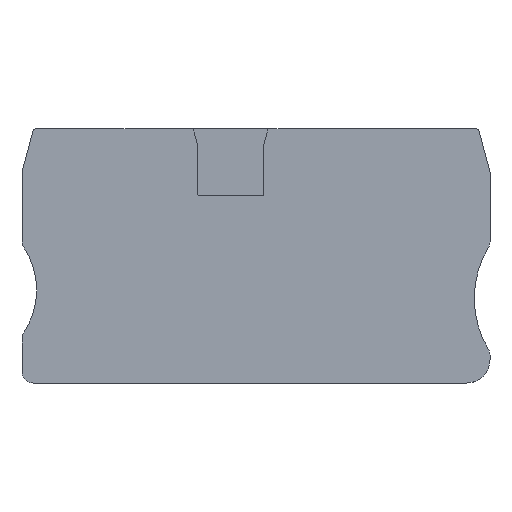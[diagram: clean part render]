
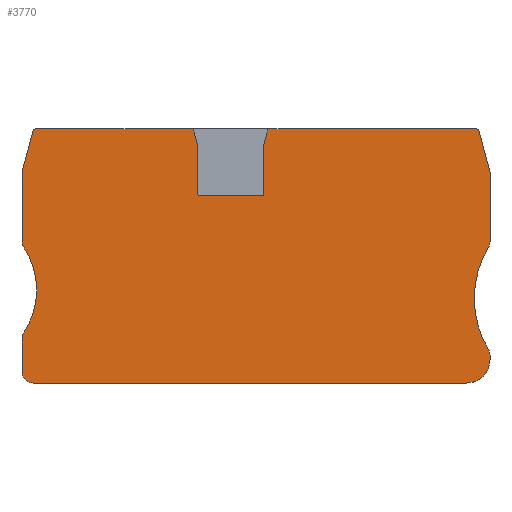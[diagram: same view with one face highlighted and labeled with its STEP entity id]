
A CAD part, top view. The second image highlights one B-rep face of the part: STEP entity #3770.
In plain terms, the highlighted planar face has unit normal (0, 0, 1).
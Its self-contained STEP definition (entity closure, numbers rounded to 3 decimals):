
#200=CARTESIAN_POINT('',(-13.204,43.745,11.9));
#210=VERTEX_POINT('',#200);
#240=CARTESIAN_POINT('',(-6.971,43.745,11.9));
#250=DIRECTION('',(-1.,0.,0.));
#260=VECTOR('',#250,1.);
#270=LINE('',#240,#260);
#280=CARTESIAN_POINT('',(-40.206,43.745,11.9));
#290=VERTEX_POINT('',#280);
#300=EDGE_CURVE('',#210,#290,#270,.T.);
#800=CARTESIAN_POINT('',(35.306,43.745,11.9));
#810=VERTEX_POINT('',#800);
#840=CARTESIAN_POINT('',(-0.396,43.745,11.9));
#850=VERTEX_POINT('',#840);
#860=EDGE_CURVE('',#810,#850,#270,.T.);
#1420=CARTESIAN_POINT('',(-39.969,13.459,11.9));
#1430=DIRECTION('',(0.,0.,1.));
#1440=DIRECTION('',(1.,0.,0.));
#1450=AXIS2_PLACEMENT_3D('',#1420,#1430,#1440);
#1460=PLANE('',#1450);
#1470=CARTESIAN_POINT('',(41.537,21.923,11.9));
#1480=DIRECTION('',(-0.259,0.966,0.));
#1490=VECTOR('',#1480,1.);
#1500=LINE('',#1470,#1490);
#1510=CARTESIAN_POINT('',(37.633,36.493,11.9));
#1520=VERTEX_POINT('',#1510);
#1530=CARTESIAN_POINT('',(35.789,43.375,11.9));
#1540=VERTEX_POINT('',#1530);
#1550=EDGE_CURVE('',#1520,#1540,#1500,.T.);
#1560=ORIENTED_EDGE('',*,*,#1550,.T.);
#1570=CARTESIAN_POINT('',(37.15,36.364,11.9));
#1580=DIRECTION('',(0.,0.,1.));
#1590=DIRECTION('',(1.,0.,0.));
#1600=AXIS2_PLACEMENT_3D('',#1570,#1580,#1590);
#1610=CIRCLE('',#1600,0.5);
#1620=CARTESIAN_POINT('',(37.65,36.364,11.9));
#1630=VERTEX_POINT('',#1620);
#1640=EDGE_CURVE('',#1630,#1520,#1610,.T.);
#1650=ORIENTED_EDGE('',*,*,#1640,.T.);
#1660=CARTESIAN_POINT('',(37.65,21.923,11.9));
#1670=DIRECTION('',(0.,1.,0.));
#1680=VECTOR('',#1670,1.);
#1690=LINE('',#1660,#1680);
#1700=CARTESIAN_POINT('',(37.65,24.463,11.9));
#1710=VERTEX_POINT('',#1700);
#1720=EDGE_CURVE('',#1710,#1630,#1690,.T.);
#1730=ORIENTED_EDGE('',*,*,#1720,.T.);
#1740=CARTESIAN_POINT('',(35.65,24.463,11.9));
#1750=DIRECTION('',(0.,0.,1.));
#1760=DIRECTION('',(1.,0.,0.));
#1770=AXIS2_PLACEMENT_3D('',#1740,#1750,#1760);
#1780=CIRCLE('',#1770,2.);
#1790=CARTESIAN_POINT('',(37.366,23.435,11.9));
#1800=VERTEX_POINT('',#1790);
#1810=EDGE_CURVE('',#1800,#1710,#1780,.T.);
#1820=ORIENTED_EDGE('',*,*,#1810,.T.);
#1830=CARTESIAN_POINT('',(51.95,14.7,11.9));
#1840=DIRECTION('',(0.,0.,1.));
#1850=DIRECTION('',(1.,0.,0.));
#1860=AXIS2_PLACEMENT_3D('',#1830,#1840,#1850);
#1870=CIRCLE('',#1860,17.);
#1880=CARTESIAN_POINT('',(34.95,14.7,11.9));
#1890=VERTEX_POINT('',#1880);
#1900=EDGE_CURVE('',#1800,#1890,#1870,.T.);
#1910=ORIENTED_EDGE('',*,*,#1900,.F.);
#1920=CARTESIAN_POINT('',(37.366,5.965,11.9));
#1930=VERTEX_POINT('',#1920);
#1940=EDGE_CURVE('',#1890,#1930,#1870,.T.);
#1950=ORIENTED_EDGE('',*,*,#1940,.F.);
#1960=CARTESIAN_POINT('',(35.65,4.937,11.9));
#1970=DIRECTION('',(0.,0.,1.));
#1980=DIRECTION('',(1.,0.,0.));
#1990=AXIS2_PLACEMENT_3D('',#1960,#1970,#1980);
#2000=CIRCLE('',#1990,2.);
#2010=CARTESIAN_POINT('',(37.65,4.937,11.9));
#2020=VERTEX_POINT('',#2010);
#2030=EDGE_CURVE('',#2020,#1930,#2000,.T.);
#2040=ORIENTED_EDGE('',*,*,#2030,.T.);
#2050=CARTESIAN_POINT('',(37.65,21.923,11.9));
#2060=DIRECTION('',(0.,1.,0.));
#2070=VECTOR('',#2060,1.);
#2080=LINE('',#2050,#2070);
#2090=CARTESIAN_POINT('',(37.65,4.2,11.9));
#2100=VERTEX_POINT('',#2090);
#2110=EDGE_CURVE('',#2100,#2020,#2080,.T.);
#2120=ORIENTED_EDGE('',*,*,#2110,.T.);
#2130=CARTESIAN_POINT('',(33.65,4.2,11.9));
#2140=DIRECTION('',(0.,0.,1.));
#2150=DIRECTION('',(1.,0.,0.));
#2160=AXIS2_PLACEMENT_3D('',#2130,#2140,#2150);
#2170=CIRCLE('',#2160,4.);
#2180=CARTESIAN_POINT('',(33.65,0.2,11.9));
#2190=VERTEX_POINT('',#2180);
#2200=EDGE_CURVE('',#2190,#2100,#2170,.T.);
#2210=ORIENTED_EDGE('',*,*,#2200,.T.);
#2220=CARTESIAN_POINT('',(-6.971,0.2,11.9));
#2230=DIRECTION('',(1.,0.,0.));
#2240=VECTOR('',#2230,1.);
#2250=LINE('',#2220,#2240);
#2260=CARTESIAN_POINT('',(-40.55,0.2,11.9));
#2270=VERTEX_POINT('',#2260);
#2280=EDGE_CURVE('',#2270,#2190,#2250,.T.);
#2290=ORIENTED_EDGE('',*,*,#2280,.T.);
#2300=CARTESIAN_POINT('',(-40.55,2.2,11.9));
#2310=DIRECTION('',(0.,0.,1.));
#2320=DIRECTION('',(1.,0.,0.));
#2330=AXIS2_PLACEMENT_3D('',#2300,#2310,#2320);
#2340=CIRCLE('',#2330,2.);
#2350=CARTESIAN_POINT('',(-42.55,2.2,11.9));
#2360=VERTEX_POINT('',#2350);
#2370=EDGE_CURVE('',#2360,#2270,#2340,.T.);
#2380=ORIENTED_EDGE('',*,*,#2370,.T.);
#2390=CARTESIAN_POINT('',(-42.55,21.923,11.9));
#2400=DIRECTION('',(0.,-1.,0.));
#2410=VECTOR('',#2400,1.);
#2420=LINE('',#2390,#2410);
#2430=CARTESIAN_POINT('',(-42.55,7.928,11.9));
#2440=VERTEX_POINT('',#2430);
#2450=EDGE_CURVE('',#2440,#2360,#2420,.T.);
#2460=ORIENTED_EDGE('',*,*,#2450,.T.);
#2470=CARTESIAN_POINT('',(-41.05,7.928,11.9));
#2480=DIRECTION('',(0.,0.,1.));
#2490=DIRECTION('',(1.,0.,0.));
#2500=AXIS2_PLACEMENT_3D('',#2470,#2480,#2490);
#2510=CIRCLE('',#2500,1.5);
#2520=CARTESIAN_POINT('',(-42.293,8.767,11.9));
#2530=VERTEX_POINT('',#2520);
#2540=EDGE_CURVE('',#2530,#2440,#2510,.T.);
#2550=ORIENTED_EDGE('',*,*,#2540,.T.);
#2560=CARTESIAN_POINT('',(-53.235,16.15,11.9));
#2570=DIRECTION('',(0.,0.,1.));
#2580=DIRECTION('',(1.,0.,0.));
#2590=AXIS2_PLACEMENT_3D('',#2560,#2570,#2580);
#2600=CIRCLE('',#2590,13.2);
#2610=CARTESIAN_POINT('',(-40.035,16.15,11.9));
#2620=VERTEX_POINT('',#2610);
#2630=EDGE_CURVE('',#2530,#2620,#2600,.T.);
#2640=ORIENTED_EDGE('',*,*,#2630,.F.);
#2650=CARTESIAN_POINT('',(-42.293,23.533,11.9));
#2660=VERTEX_POINT('',#2650);
#2670=EDGE_CURVE('',#2620,#2660,#2600,.T.);
#2680=ORIENTED_EDGE('',*,*,#2670,.F.);
#2690=CARTESIAN_POINT('',(-41.05,24.372,11.9));
#2700=DIRECTION('',(0.,0.,1.));
#2710=DIRECTION('',(1.,0.,0.));
#2720=AXIS2_PLACEMENT_3D('',#2690,#2700,#2710);
#2730=CIRCLE('',#2720,1.5);
#2740=CARTESIAN_POINT('',(-42.55,24.372,11.9));
#2750=VERTEX_POINT('',#2740);
#2760=EDGE_CURVE('',#2750,#2660,#2730,.T.);
#2770=ORIENTED_EDGE('',*,*,#2760,.T.);
#2780=CARTESIAN_POINT('',(-42.55,21.923,11.9));
#2790=DIRECTION('',(0.,-1.,0.));
#2800=VECTOR('',#2790,1.);
#2810=LINE('',#2780,#2800);
#2820=CARTESIAN_POINT('',(-42.55,36.364,11.9));
#2830=VERTEX_POINT('',#2820);
#2840=EDGE_CURVE('',#2830,#2750,#2810,.T.);
#2850=ORIENTED_EDGE('',*,*,#2840,.T.);
#2860=CARTESIAN_POINT('',(-42.05,36.364,11.9));
#2870=DIRECTION('',(0.,0.,1.));
#2880=DIRECTION('',(1.,0.,0.));
#2890=AXIS2_PLACEMENT_3D('',#2860,#2870,#2880);
#2900=CIRCLE('',#2890,0.5);
#2910=CARTESIAN_POINT('',(-42.533,36.493,11.9));
#2920=VERTEX_POINT('',#2910);
#2930=EDGE_CURVE('',#2920,#2830,#2900,.T.);
#2940=ORIENTED_EDGE('',*,*,#2930,.T.);
#2950=CARTESIAN_POINT('',(-46.437,21.923,11.9));
#2960=DIRECTION('',(-0.259,-0.966,0.));
#2970=VECTOR('',#2960,1.);
#2980=LINE('',#2950,#2970);
#2990=CARTESIAN_POINT('',(-40.689,43.375,11.9));
#3000=VERTEX_POINT('',#2990);
#3010=EDGE_CURVE('',#3000,#2920,#2980,.T.);
#3020=ORIENTED_EDGE('',*,*,#3010,.T.);
#3030=CARTESIAN_POINT('',(-40.206,43.245,11.9));
#3040=DIRECTION('',(0.,0.,1.));
#3050=DIRECTION('',(1.,0.,0.));
#3060=AXIS2_PLACEMENT_3D('',#3030,#3040,#3050);
#3070=CIRCLE('',#3060,0.5);
#3080=EDGE_CURVE('',#290,#3000,#3070,.T.);
#3090=ORIENTED_EDGE('',*,*,#3080,.T.);
#3100=ORIENTED_EDGE('',*,*,#300,.T.);
#3110=CARTESIAN_POINT('',(-7.357,21.923,11.9));
#3120=DIRECTION('',(-0.259,0.966,0.));
#3130=VECTOR('',#3120,1.);
#3140=LINE('',#3110,#3130);
#3150=CARTESIAN_POINT('',(-12.4,40.745,11.9));
#3160=VERTEX_POINT('',#3150);
#3170=EDGE_CURVE('',#3160,#210,#3140,.T.);
#3180=ORIENTED_EDGE('',*,*,#3170,.T.);
#3190=CARTESIAN_POINT('',(-12.4,21.923,11.9));
#3200=DIRECTION('',(0.,-1.,0.));
#3210=VECTOR('',#3200,1.);
#3220=LINE('',#3190,#3210);
#3230=CARTESIAN_POINT('',(-12.4,32.481,11.9));
#3240=VERTEX_POINT('',#3230);
#3250=EDGE_CURVE('',#3160,#3240,#3220,.T.);
#3260=ORIENTED_EDGE('',*,*,#3250,.F.);
#3270=CARTESIAN_POINT('',(-12.2,32.481,11.9));
#3280=DIRECTION('',(0.,0.,-1.));
#3290=DIRECTION('',(-1.,0.,0.));
#3300=AXIS2_PLACEMENT_3D('',#3270,#3280,#3290);
#3310=CIRCLE('',#3300,0.2);
#3320=CARTESIAN_POINT('',(-12.2,32.281,11.9));
#3330=VERTEX_POINT('',#3320);
#3340=EDGE_CURVE('',#3330,#3240,#3310,.T.);
#3350=ORIENTED_EDGE('',*,*,#3340,.T.);
#3360=CARTESIAN_POINT('',(-6.971,32.281,11.9));
#3370=DIRECTION('',(-1.,0.,0.));
#3380=VECTOR('',#3370,1.);
#3390=LINE('',#3360,#3380);
#3400=CARTESIAN_POINT('',(-1.4,32.281,11.9));
#3410=VERTEX_POINT('',#3400);
#3420=EDGE_CURVE('',#3410,#3330,#3390,.T.);
#3430=ORIENTED_EDGE('',*,*,#3420,.T.);
#3440=CARTESIAN_POINT('',(-1.4,32.481,11.9));
#3450=DIRECTION('',(0.,0.,-1.));
#3460=DIRECTION('',(-1.,0.,0.));
#3470=AXIS2_PLACEMENT_3D('',#3440,#3450,#3460);
#3480=CIRCLE('',#3470,0.2);
#3490=CARTESIAN_POINT('',(-1.2,32.481,11.9));
#3500=VERTEX_POINT('',#3490);
#3510=EDGE_CURVE('',#3500,#3410,#3480,.T.);
#3520=ORIENTED_EDGE('',*,*,#3510,.T.);
#3530=CARTESIAN_POINT('',(-1.2,21.923,11.9));
#3540=DIRECTION('',(0.,1.,0.));
#3550=VECTOR('',#3540,1.);
#3560=LINE('',#3530,#3550);
#3570=CARTESIAN_POINT('',(-1.2,40.745,11.9));
#3580=VERTEX_POINT('',#3570);
#3590=EDGE_CURVE('',#3500,#3580,#3560,.T.);
#3600=ORIENTED_EDGE('',*,*,#3590,.F.);
#3610=CARTESIAN_POINT('',(-6.243,21.923,11.9));
#3620=DIRECTION('',(0.259,0.966,0.));
#3630=VECTOR('',#3620,1.);
#3640=LINE('',#3610,#3630);
#3650=EDGE_CURVE('',#3580,#850,#3640,.T.);
#3660=ORIENTED_EDGE('',*,*,#3650,.F.);
#3670=ORIENTED_EDGE('',*,*,#860,.T.);
#3680=CARTESIAN_POINT('',(35.306,43.245,11.9));
#3690=DIRECTION('',(0.,0.,1.));
#3700=DIRECTION('',(1.,0.,0.));
#3710=AXIS2_PLACEMENT_3D('',#3680,#3690,#3700);
#3720=CIRCLE('',#3710,0.5);
#3730=EDGE_CURVE('',#1540,#810,#3720,.T.);
#3740=ORIENTED_EDGE('',*,*,#3730,.T.);
#3750=EDGE_LOOP('',(#3740,#3670,#3660,#3600,#3520,#3430,#3350,#3260,
#3180,#3100,#3090,#3020,#2940,#2850,#2770,#2680,#2640,#2550,#2460,#2380,
#2290,#2210,#2120,#2040,#1950,#1910,#1820,#1730,#1650,#1560));
#3760=FACE_OUTER_BOUND('',#3750,.T.);
#3770=ADVANCED_FACE('',(#3760),#1460,.T.);
